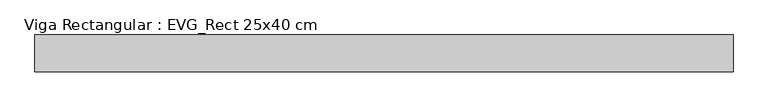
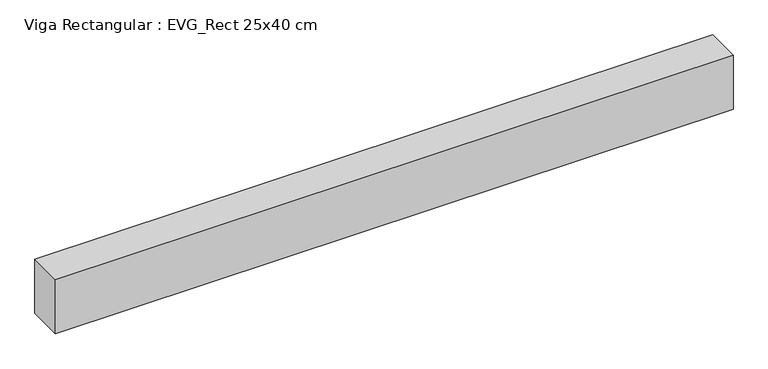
"""IFC4 building model written with IfcOpenShell, lengths in millimetres: beam geometry, Viga Rectangular : EVG_Rect 25x40 cm."""

from ifc_helpers import new_model, si_unit, frame, origin, place, context, project, spatial, polyline, outline, extrude, source, transform, mapped, element, save


def viga_rectangular_evg_rect_25x40_cm_73fd8fdc(model_context):
    return source(origin(), model_context, "Body", "SweptSolid", [
        extrude(outline(polyline([(2375.0, 125.0), (2375.0, -125.0), (-2375.0, -125.0), (-2375.0, 125.0), (2375.0, 125.0)])), frame((0.0, 0.0, -400.0), z_axis=(0.0, 0.0, 1.0), x_axis=(1.0, 0.0, 0.0)), (0.0, 0.0, 1.0), 400.0),
    ])


if __name__ == "__main__":
    model = new_model("IFC4")
    model_context = context("Model", 3, world=origin())
    ifc_project = project(units=[si_unit("LENGTHUNIT", "METRE", prefix="MILLI")], contexts=[model_context])
    site = spatial("IfcSite", under=ifc_project)
    building = spatial("IfcBuilding", under=site)
    placement = place(None, origin())
    viga_rectangular_evg_rect_25x40_cm_shape = viga_rectangular_evg_rect_25x40_cm_73fd8fdc(model_context)
    element("IfcBeam", 1, ObjectType="Viga Rectangular : EVG_Rect 25x40 cm", at=placement, inside=building, context=model_context, shape_type="MappedRepresentation", body=[
        mapped(viga_rectangular_evg_rect_25x40_cm_shape, transform((0.0, 0.0, 0.0), x_axis=(1.0, 0.0, 0.0), y_axis=(0.0, 1.0, 0.0), z_axis=(0.0, 0.0, 1.0))),
    ])
    save(model, "model.ifc")
